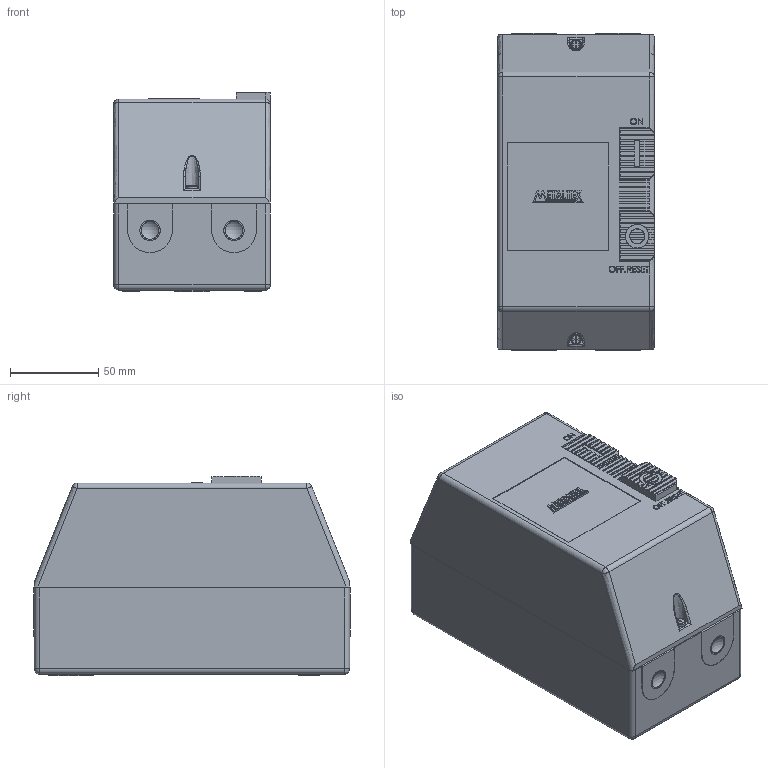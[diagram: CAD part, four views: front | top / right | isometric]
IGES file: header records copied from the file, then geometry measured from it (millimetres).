
Start section: SolidWorks IGES file using analytic representation for surfaces
Global section: file name: D:\X - Arquivos\PROEX\Empresas\P11 - METALTEX\01 - Produtos\IGES\5ª remessa\3ª etapa\CP12-H5-4A.IGS; native system: SolidWorks 2012; preprocessor: SolidWorks 2012; author: Usuario; date: 180829.124529; units: millimetre
Bounding box: 89 x 180 x 113.5 mm (x, y, z)
Surface area: 93844.5 mm2 (no closed solid volume)
Topology: 0 solids, 0 shells, 576 faces, 5157 edges, 5156 vertices
Faces by surface type: bspline 504, revolution 72
